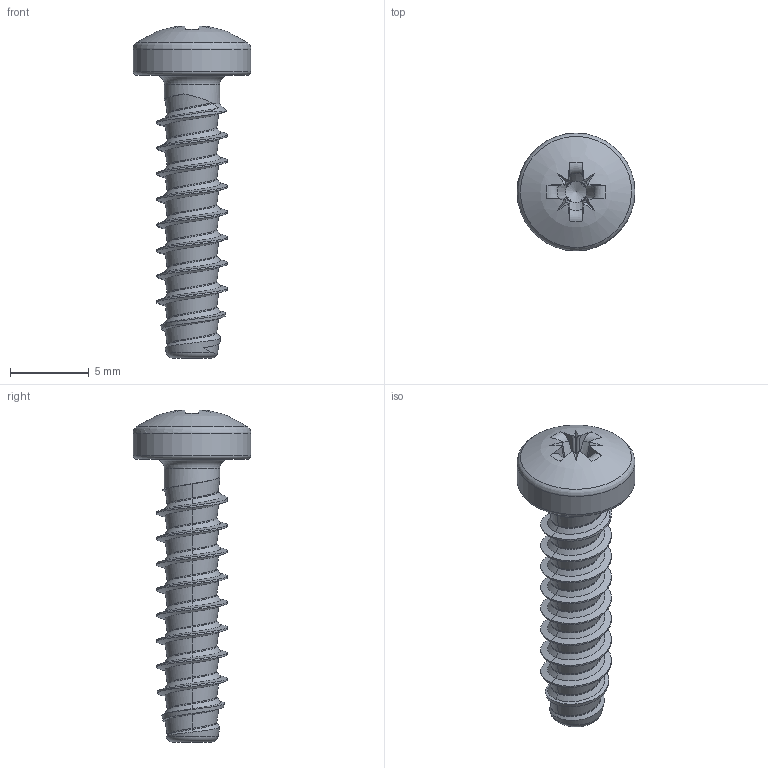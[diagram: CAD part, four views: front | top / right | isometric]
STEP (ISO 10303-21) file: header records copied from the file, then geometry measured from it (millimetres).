
FILE_DESCRIPTION(/* description */ (''),/* implementation_level */ '2;1');
FILE_NAME(/* name */ 'KN6032-STSplus-45x18-Z2.step',/* time_stamp */ '2017-10-10T16:06:54+02:00',/* author */ (''),/* organization */ (''),/* preprocessor_version */ 'ST-DEVELOPER v16',/* originating_system */ 'SIEMENS PLM Software NX 10.0',/* authorisation */ '');
FILE_SCHEMA (('AUTOMOTIVE_DESIGN { 1 0 10303 214 3 1 1 1 }'));
Length unit declared in the file: millimetre
Products named in the file (1): KN6032-STSplus-45x18-Z2
Bounding box: 7.5 x 7.5 x 21.14 mm (x, y, z)
Volume: 282.6 mm3; surface area: 424.3 mm2
Topology: 1 solids, 1 shells, 123 faces, 297 edges, 176 vertices
Faces by surface type: bspline 54, plane 42, cylinder 11, torus 8, cone 7, sphere 1
Full cylindrical faces by diameter (mm): 3.53 x1, 7.5 x1
Entity records: 6410 total; most frequent: CARTESIAN_POINT 3974, ORIENTED_EDGE 566, DIRECTION 360, EDGE_CURVE 283, VERTEX_POINT 171, EDGE_LOOP 131, AXIS2_PLACEMENT_3D 125, ADVANCED_FACE 123
